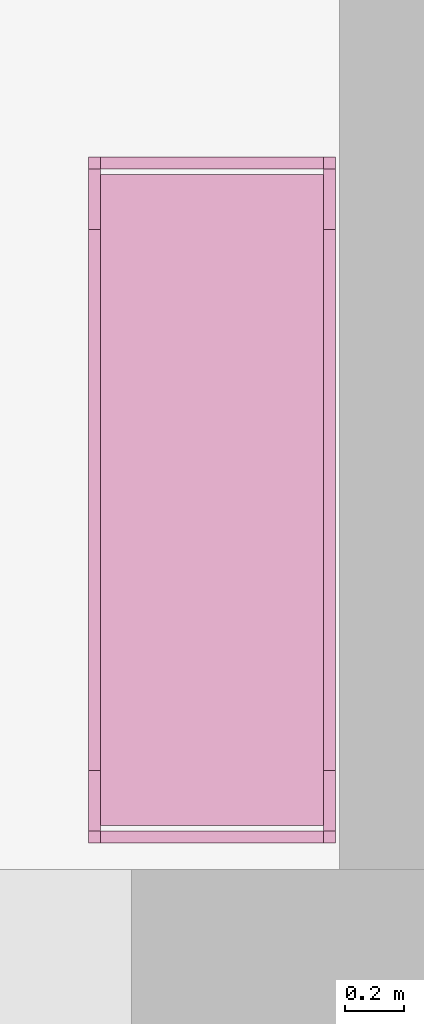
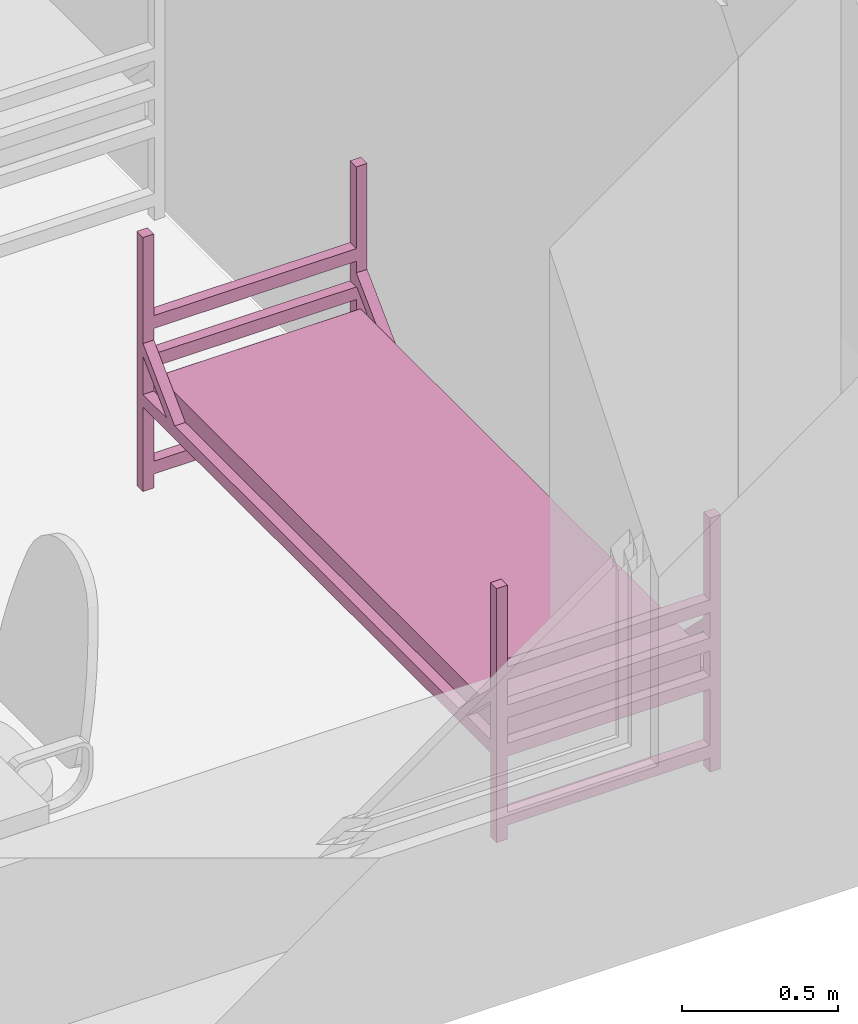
# One storey, part 37 of 48: 1 furnishing.
"""IFC2X3 building model written with IfcOpenShell, lengths in millimetres."""

from ifc_helpers import new_model, entity, si_unit, converted_unit, derived_unit, direction, frame, frame_2d, origin, place, context, subcontext, project, spatial, polyline, circle_curve, parameter, trimmed, segment, composite_curve, rectangle, outline, extrude, source, transform, mapped, material, type_object, type_shapes, element, save


model = new_model("IFC2X3")

# Units and contexts
model_context = context("Model", 3, precision=0.01, world=origin(), true_north=direction((6.12303176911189e-17, 1.0)))
body_context = subcontext(model_context, "Body", "Model", "MODEL_VIEW")
ifc_project = project(units=[si_unit("LENGTHUNIT", "METRE", prefix="MILLI"), si_unit("AREAUNIT", "SQUARE_METRE"), si_unit("VOLUMEUNIT", "CUBIC_METRE"), converted_unit("PLANEANGLEUNIT", "DEGREE", entity("IfcRatioMeasure", 0.0174532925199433), si_unit("PLANEANGLEUNIT", "RADIAN"), dimensions=[0, 0, 0, 0, 0, 0, 0]), si_unit("MASSUNIT", "GRAM", prefix="KILO"), derived_unit("MASSDENSITYUNIT", [(si_unit("MASSUNIT", "GRAM", prefix="KILO"), 1), (si_unit("LENGTHUNIT", "METRE"), -3)]), si_unit("TIMEUNIT", "SECOND"), si_unit("FREQUENCYUNIT", "HERTZ"), si_unit("THERMODYNAMICTEMPERATUREUNIT", "DEGREE_CELSIUS"), derived_unit("THERMALTRANSMITTANCEUNIT", [(si_unit("MASSUNIT", "GRAM", prefix="KILO"), 1), (si_unit("THERMODYNAMICTEMPERATUREUNIT", "KELVIN"), -1), (si_unit("TIMEUNIT", "SECOND"), -3)]), derived_unit("VOLUMETRICFLOWRATEUNIT", [(si_unit("LENGTHUNIT", "METRE"), 3), (si_unit("TIMEUNIT", "SECOND"), -1)]), si_unit("ELECTRICCURRENTUNIT", "AMPERE"), si_unit("ELECTRICVOLTAGEUNIT", "VOLT"), si_unit("POWERUNIT", "WATT"), si_unit("FORCEUNIT", "NEWTON", prefix="KILO"), si_unit("ILLUMINANCEUNIT", "LUX"), si_unit("LUMINOUSFLUXUNIT", "LUMEN"), si_unit("LUMINOUSINTENSITYUNIT", "CANDELA"), derived_unit("USERDEFINED", [(si_unit("MASSUNIT", "GRAM", prefix="KILO"), -1), (si_unit("LENGTHUNIT", "METRE"), -2), (si_unit("TIMEUNIT", "SECOND"), 3), (si_unit("LUMINOUSFLUXUNIT", "LUMEN"), 1)]), derived_unit("LINEARVELOCITYUNIT", [(si_unit("LENGTHUNIT", "METRE"), 1), (si_unit("TIMEUNIT", "SECOND"), -1)]), si_unit("PRESSUREUNIT", "PASCAL"), derived_unit("USERDEFINED", [(si_unit("LENGTHUNIT", "METRE"), -2), (si_unit("MASSUNIT", "GRAM", prefix="KILO"), 1), (si_unit("TIMEUNIT", "SECOND"), -2)]), derived_unit("LINEARFORCEUNIT", [(si_unit("MASSUNIT", "GRAM", prefix="KILO"), 1), (si_unit("LENGTHUNIT", "METRE"), 1), (si_unit("TIMEUNIT", "SECOND"), -2), (si_unit("LENGTHUNIT", "METRE"), -1)]), derived_unit("PLANARFORCEUNIT", [(si_unit("MASSUNIT", "GRAM", prefix="KILO"), 1), (si_unit("LENGTHUNIT", "METRE"), 1), (si_unit("TIMEUNIT", "SECOND"), -2), (si_unit("LENGTHUNIT", "METRE"), -2)])], contexts=[model_context])

# Site, building, storey, space
site_placement = place(None, origin())
site = spatial("IfcSite", under=ifc_project, at=site_placement, Name="Default", CompositionType="ELEMENT")
building_placement = place(site_placement, origin())
building = spatial("IfcBuilding", under=site, at=building_placement, Name="SMA ARH", CompositionType="ELEMENT")
storey_placement = place(building_placement, frame((0.0, 0.0, 3300.0)))
storey = spatial("IfcBuildingStorey", under=building, at=storey_placement, Name="2 Korrus", CompositionType="ELEMENT", Elevation=3299.99999999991)
space_placement = place(storey_placement, origin())
space = spatial("IfcSpace", under=storey, at=space_placement, Name="2-6", CompositionType="ELEMENT", InteriorOrExteriorSpace="INTERNAL")

# Furnishing
ifc_material = material(Name="Madrats")
furniture_type = type_object("IfcFurnitureType", Name="Kasarmu voodi ühekordne 2308x830:Kasarmu voodi ühekordne 2308x830", material=ifc_material)
shared_shape = source(origin(), body_context, "Body", "SweptSolid", [
    extrude(rectangle(XDim=39.9999999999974, YDim=750.000000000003, at=frame_2d((-1.35003119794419e-13, -2.8421709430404e-14), x_axis=(1.0, 0.0))), frame((1.68638457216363, -1226.7969571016, 55.0), z_axis=(0.0, 0.0, 1.0), x_axis=(0.0, -1.0, 0.0)), (0.0, 0.0, 1.0), 49.9999999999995),
    extrude(rectangle(XDim=39.9999999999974, YDim=750.000000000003, at=frame_2d((-1.35003119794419e-13, -2.8421709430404e-14), x_axis=(1.0, 0.0))), frame((1.68638457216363, -1226.7969571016, 325.0), z_axis=(0.0, 0.0, 1.0), x_axis=(0.0, -1.0, 0.0)), (0.0, 0.0, 1.0), 49.9999999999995),
    extrude(rectangle(XDim=39.9999999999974, YDim=750.000000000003, at=frame_2d((-1.35003119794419e-13, -2.8421709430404e-14), x_axis=(1.0, 0.0))), frame((1.68638457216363, -1226.7969571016, 475.0), z_axis=(0.0, 0.0, 1.0), x_axis=(0.0, -1.0, 0.0)), (0.0, 0.0, 1.0), 49.9999999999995),
    extrude(rectangle(XDim=39.9999999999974, YDim=750.000000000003, at=frame_2d((-1.35003119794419e-13, -2.8421709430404e-14), x_axis=(1.0, 0.0))), frame((1.68638457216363, -1226.7969571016, 625.0), z_axis=(0.0, 0.0, 1.0), x_axis=(0.0, -1.0, 0.0)), (0.0, 0.0, 1.0), 50.0000000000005),
    extrude(rectangle(XDim=39.9999999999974, YDim=750.000000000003, at=frame_2d((1.35003119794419e-13, -2.8421709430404e-14), x_axis=(1.0, 0.0))), frame((1.68638457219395, 1041.2030428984, 55.0), z_axis=(0.0, 0.0, 1.0), x_axis=(0.0, -1.0, 0.0)), (0.0, 0.0, 1.0), 50.0000000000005),
    extrude(rectangle(XDim=39.9999999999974, YDim=750.000000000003, at=frame_2d((1.35003119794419e-13, -2.8421709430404e-14), x_axis=(1.0, 0.0))), frame((1.68638457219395, 1041.2030428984, 325.0), z_axis=(0.0, 0.0, 1.0), x_axis=(0.0, -1.0, 0.0)), (0.0, 0.0, 1.0), 50.0000000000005),
    extrude(rectangle(XDim=39.9999999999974, YDim=750.000000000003, at=frame_2d((1.35003119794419e-13, -2.8421709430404e-14), x_axis=(1.0, 0.0))), frame((1.68638457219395, 1041.2030428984, 475.0), z_axis=(0.0, 0.0, 1.0), x_axis=(0.0, -1.0, 0.0)), (0.0, 0.0, 1.0), 50.0000000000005),
    extrude(rectangle(XDim=39.9999999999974, YDim=750.000000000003, at=frame_2d((1.35003119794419e-13, -2.8421709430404e-14), x_axis=(1.0, 0.0))), frame((1.68638457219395, 1041.2030428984, 625.0), z_axis=(0.0, 0.0, 1.0), x_axis=(0.0, -1.0, 0.0)), (0.0, 0.0, 1.0), 49.9999999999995),
    extrude(outline(composite_curve([segment(trimmed(circle_curve(frame_2d((1085.0, -40.0), x_axis=(1.0, 0.0)), 10.0), [parameter(270.0)], [parameter(0.0)], True, "PARAMETER"), True, "CONTINUOUS"), segment(polyline([(1095.0, -40.0), (1095.0, 40.0)]), True, "CONTINUOUS"), segment(trimmed(circle_curve(frame_2d((1085.0, 40.0), x_axis=(1.0, 0.0)), 10.0), [parameter(0.0)], [parameter(90.0000000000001)], True, "PARAMETER"), True, "CONTINUOUS"), segment(polyline([(1085.0, 50.0), (-1085.0, 50.0)]), True, "CONTINUOUS"), segment(trimmed(circle_curve(frame_2d((-1085.0, 40.0), x_axis=(1.0, 0.0)), 10.0), [parameter(90.0000000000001)], [parameter(180.0)], True, "PARAMETER"), True, "CONTINUOUS"), segment(polyline([(-1095.0, 40.0), (-1095.0, -40.0)]), True, "CONTINUOUS"), segment(trimmed(circle_curve(frame_2d((-1085.0, -40.0), x_axis=(1.0, 0.0)), 10.0), [parameter(180.0)], [parameter(270.0)], True, "PARAMETER"), True, "CONTINUOUS"), segment(polyline([(-1085.0, -50.0), (1085.0, -50.0)]), True, "CONTINUOUS")], self_intersect=False)), frame((-373.313615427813, -92.7969571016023, 405.0), z_axis=(1.0, 0.0, 0.0), x_axis=(0.0, -1.0, 0.0)), (0.0, 0.0, 1.0), 750.000000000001),
    extrude(outline(polyline([(-1114.0, -100.0), (1114.0, -100.0), (1114.0, -50.0), (961.59199141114, -50.0), (1114.0, 100.0), (1114.0, 150.0), (910.789321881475, -50.0), (-910.789321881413, -50.0), (-1114.0, 150.0), (-1114.0, 100.0), (-961.591991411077, -50.0), (-1114.0, -50.0), (-1114.0, -100.0)])), frame((-413.313615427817, -92.7969571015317, 430.0), z_axis=(1.0, 0.0, 0.0), x_axis=(0.0, 1.0, 0.0)), (0.0, 0.0, 1.0), 39.9999999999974),
    extrude(outline(polyline([(-1114.0, -100.0), (1114.0, -100.0), (1114.0, -50.0), (961.591991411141, -50.0), (1114.0, 100.0), (1114.0, 150.0), (910.789321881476, -50.0), (-910.789321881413, -50.0), (-1114.0, 150.0), (-1114.0, 100.0), (-961.591991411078, -50.0), (-1114.0, -50.0), (-1114.0, -100.0)])), frame((376.686384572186, -92.796957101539, 430.0), z_axis=(1.0, 0.0, 0.0), x_axis=(0.0, 1.0, 0.0)), (0.0, 0.0, 1.0), 39.9999999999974),
    extrude(rectangle(XDim=39.9999999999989, YDim=39.9999999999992, at=frame_2d((-6.75015598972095e-14, 0.0), x_axis=(1.0, 0.0))), frame((396.686384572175, -1226.79695710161, 0.0), z_axis=(0.0, 0.0, 1.0), x_axis=(0.0, 1.0, 0.0)), (0.0, 0.0, 1.0), 995.0),
    extrude(rectangle(XDim=39.9999999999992, YDim=39.9999999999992, at=frame_2d((-1.35003119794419e-13, 0.0), x_axis=(1.0, 0.0))), frame((396.686384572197, 1041.20304289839, 0.0), z_axis=(0.0, 0.0, 1.0), x_axis=(0.0, 1.0, 0.0)), (0.0, 0.0, 1.0), 995.0),
    extrude(rectangle(XDim=40.0000000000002, YDim=39.9999999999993, at=frame_2d((-1.35003119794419e-13, 0.0), x_axis=(1.0, 0.0))), frame((-393.313615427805, 1041.2030428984, 0.0), z_axis=(0.0, 0.0, 1.0), x_axis=(0.0, 1.0, 0.0)), (0.0, 0.0, 1.0), 995.0),
    extrude(rectangle(XDim=39.9999999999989, YDim=39.9999999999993, at=frame_2d((-6.75015598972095e-14, 0.0), x_axis=(1.0, 0.0))), frame((-393.313615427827, -1226.7969571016, 0.0), z_axis=(0.0, 0.0, 1.0), x_axis=(0.0, 1.0, 0.0)), (0.0, 0.0, 1.0), 995.0),
])
type_shapes(furniture_type, [shared_shape])
furnishing_placement = place(space_placement, frame((29999.9408462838, 1336.79695710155, 0.0)))
element("IfcFurnishingElement", 1, at=furnishing_placement, inside=space, type_object=furniture_type, material=ifc_material, Name="Kasarmu voodi ühekordne 2308x830:Kasarmu voodi ühekordne 2308x830", ObjectType="Kasarmu voodi ühekordne 2308x830:Kasarmu voodi ühekordne 2308x830", context=body_context, shape_type="MappedRepresentation", body=[
    mapped(shared_shape, transform((0.0, 0.0, 0.0), scale=1.0)),
])

save(model, "model.ifc")
